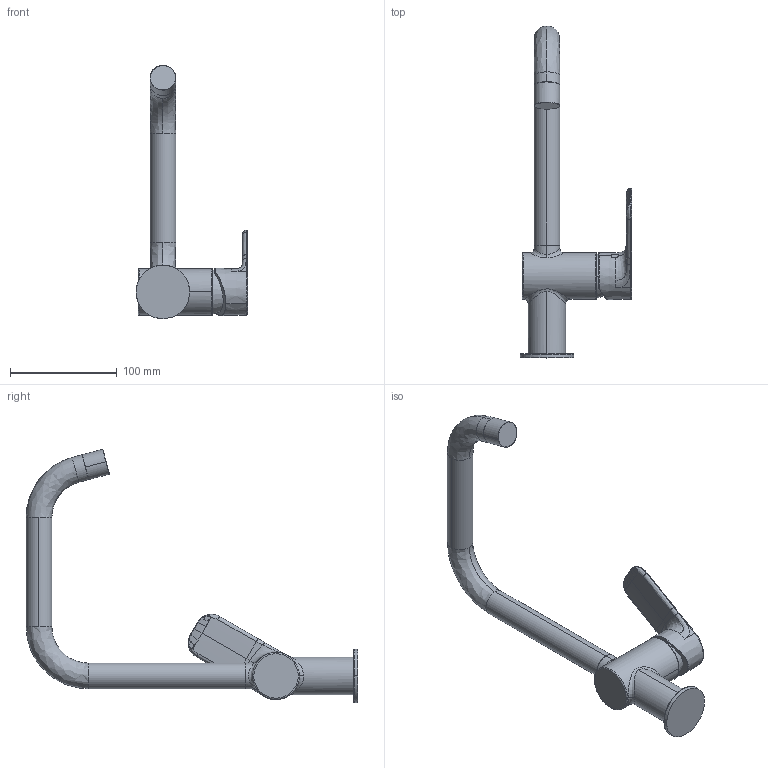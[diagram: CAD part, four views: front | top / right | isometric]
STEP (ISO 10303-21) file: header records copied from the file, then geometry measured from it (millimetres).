
FILE_DESCRIPTION (( 'STEP AP203' ), '1' );
FILE_NAME ('1631FN(2025).STEP', '2024-12-03T08:35:49', ( '' ), ( '' ), 'SwSTEP 2.0', 'SolidWorks 2024', '' );
FILE_SCHEMA (( 'CONFIG_CONTROL_DESIGN' ));
Length unit declared in the file: millimetre
Products named in the file (1): 1631FN(2025)
Bounding box: 104.37 x 310.08 x 236.85 mm (x, y, z)
Volume: 414518.2 mm3; surface area: 63450 mm2
Topology: 1 solids, 1 shells, 139 faces, 355 edges, 222 vertices
Faces by surface type: bspline 105, cylinder 18, plane 12, torus 2, cone 2
Entity records: 12375 total; most frequent: CARTESIAN_POINT 9710, ORIENTED_EDGE 710, EDGE_CURVE 355, DIRECTION 329, VERTEX_POINT 222, B_SPLINE_CURVE_WITH_KNOTS 153, AXIS2_PLACEMENT_3D 149, EDGE_LOOP 143
